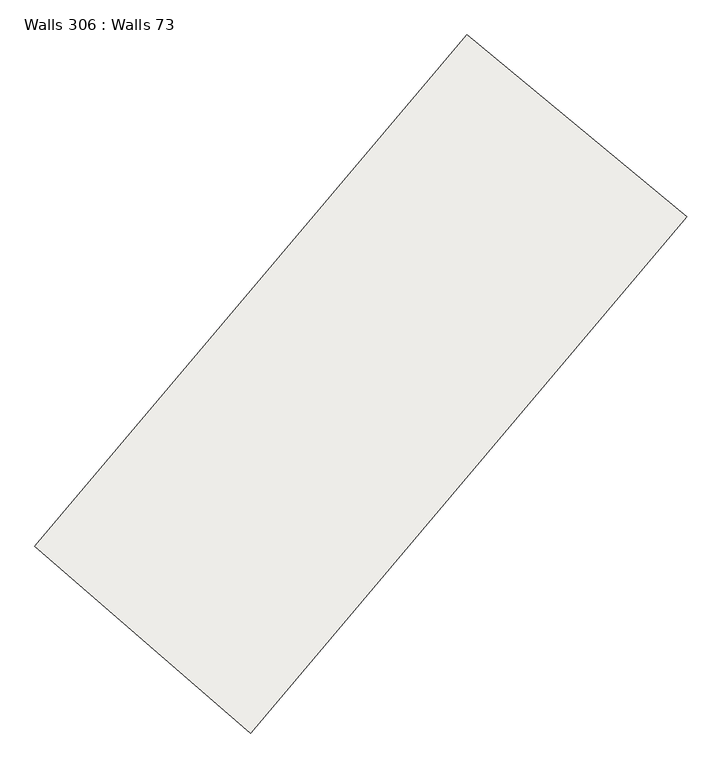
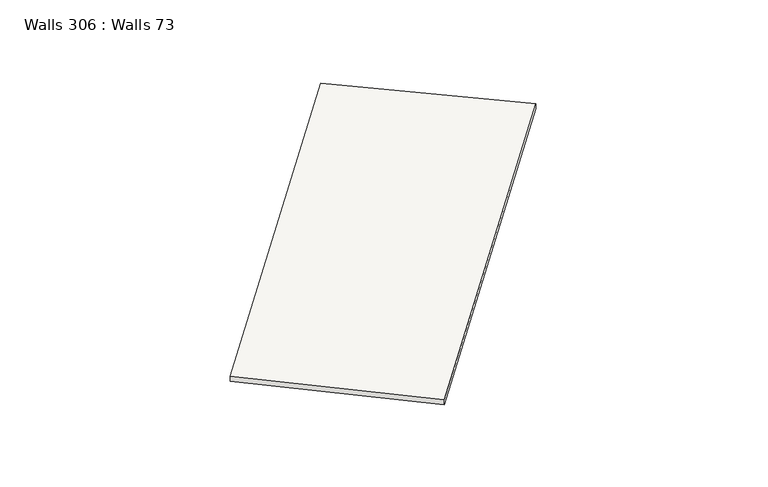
"""IFC4 building model written with IfcOpenShell, lengths in millimetres: slab geometry, Walls 306 : Walls 73."""

from ifc_helpers import new_model, si_unit, frame, origin, place, context, project, spatial, source, transform, mapped, element, save
from ifc_brep_helpers import plane_surface, spline_curve, spline_surface, advanced_brep


def walls_306_walls_73_5ff2eeef(model_context):
    return source(origin(), model_context, "Body", "AdvancedBrep", [
        advanced_brep(
        [(51633.6617327, -100313.7191349, 638790.0), (54432.5728274, -102733.6564654, 638790.0), (54432.5728274, -102733.6564654, 638890.0), (51633.6617327, -100313.7191349, 638890.0), (57239.1273025, -93686.0827888, 638880.0), (57239.1273025, -93686.0827888, 638980.0), (60090.0058807, -96044.5762344, 638980.0), (60090.0058807, -96044.5762344, 638880.0)],
        [
            (0, 1),
            (1, 2),
            (2, 3),
            (3, 0),
            (4, 5),
            (5, 6),
            (6, 7),
            (7, 4),
            (5, 3, spline_curve(3, [(57239.1273025, -93686.0827888, 638980.0), (55394.737620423, -95915.527624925, 638949.999999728), (53526.101778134, -98124.913924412, 638920.000000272), (51633.6617327, -100313.7191349, 638890.0)], [4, 4], [0.0, 28.612478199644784])),
            (2, 6, spline_curve(3, [(54432.5728274, -102733.6564654, 638890.0), (56342.557417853, -100524.559148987, 638920.000000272), (58228.517121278, -98294.689939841, 638949.999999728), (60090.0058807, -96044.5762344, 638980.0)], [4, 4], [0.0, 28.612478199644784])),
            (7, 1, spline_curve(3, [(60090.0058807, -96044.5762344, 638880.0), (58228.517121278, -98294.689939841, 638849.999999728), (56342.557417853, -100524.559148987, 638820.000000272), (54432.5728274, -102733.6564654, 638790.0)], [4, 4], [0.0, 28.612478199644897])),
            (0, 4, spline_curve(3, [(51633.6617327, -100313.7191349, 638790.0), (53526.101778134, -98124.913924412, 638820.000000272), (55394.737620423, -95915.527624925, 638849.999999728), (57239.1273025, -93686.0827888, 638880.0)], [4, 4], [0.0, 28.612478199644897])),
        ],
        [
            plane_surface(frame((53033.1172801, -101523.6878001, 638840.0), z_axis=(-0.6540371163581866, -0.7564624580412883, 0.0), x_axis=(0.7564624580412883, -0.6540371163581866, 0.0))),
            plane_surface(frame((58664.5665916, -94865.3295116, 638930.0), z_axis=(0.6374306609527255, 0.7705077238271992, 0.0), x_axis=(0.7705077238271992, -0.6374306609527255, 0.0))),
            spline_surface(3, 3, [[(60090.0058807, -96044.5762344, 638980.0), (58228.517121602, -98294.689940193, 638950.0), (56342.557418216, -100524.55914928, 638920.0), (54432.5728274, -102733.6564654, 638890.0)], [(59139.713021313, -95258.411752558, 638980.0), (57283.923954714, -97501.635835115, 638950.0), (55403.738871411, -99724.67740759, 638920.0), (53499.602462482, -101927.010688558, 638890.0)], [(58189.420161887, -94472.247270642, 638980.0), (56339.330787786, -96708.581729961, 638950.0), (54464.920324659, -98924.795665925, 638920.0), (52566.632097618, -101120.364911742, 638890.0)], [(57239.1273025, -93686.0827888, 638980.0), (55394.737620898, -95915.527624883, 638950.0), (53526.101777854, -98124.913924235, 638920.0), (51633.6617327, -100313.7191349, 638890.0)]], [4, 4], [4, 4], [0.0, 12.13910760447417], [0.0, 28.612478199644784]),
            spline_surface(3, 3, [[(57239.1273025, -93686.0827888, 638880.0), (55394.737620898, -95915.527624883, 638850.0), (53526.101777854, -98124.913924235, 638820.0), (51633.6617327, -100313.7191349, 638790.0)], [(58189.420161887, -94472.247270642, 638880.0), (56339.330787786, -96708.581729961, 638850.0), (54464.920324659, -98924.795665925, 638820.0), (52566.632097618, -101120.364911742, 638790.0)], [(59139.713021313, -95258.411752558, 638880.0), (57283.923954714, -97501.635835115, 638850.0), (55403.738871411, -99724.67740759, 638820.0), (53499.602462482, -101927.010688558, 638790.0)], [(60090.0058807, -96044.5762344, 638880.0), (58228.517121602, -98294.689940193, 638850.0), (56342.557418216, -100524.55914928, 638820.0), (54432.5728274, -102733.6564654, 638790.0)]], [4, 4], [4, 4], [0.0, 12.139107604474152], [0.0, 28.612478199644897]),
            spline_surface(3, 3, [[(60090.0058807, -96044.5762344, 638880.0), (58228.517121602, -98294.689940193, 638850.0), (56342.557418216, -100524.55914928, 638820.0), (54432.5728274, -102733.6564654, 638790.0)], [(60090.0058807, -96044.5762344, 638913.333333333), (58228.517121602, -98294.689940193, 638883.333333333), (56342.557418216, -100524.55914928, 638853.333333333), (54432.5728274, -102733.6564654, 638823.333333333)], [(60090.0058807, -96044.5762344, 638946.666666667), (58228.517121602, -98294.689940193, 638916.666666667), (56342.557418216, -100524.55914928, 638886.666666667), (54432.5728274, -102733.6564654, 638856.666666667)], [(60090.0058807, -96044.5762344, 638980.0), (58228.517121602, -98294.689940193, 638950.0), (56342.557418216, -100524.55914928, 638920.0), (54432.5728274, -102733.6564654, 638890.0)]], [4, 4], [4, 4], [0.0, 0.3280839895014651], [0.0, 28.744483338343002]),
            spline_surface(3, 3, [[(57239.1273025, -93686.0827888, 638980.0), (55394.737620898, -95915.527624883, 638950.0), (53526.101777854, -98124.913924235, 638920.0), (51633.6617327, -100313.7191349, 638890.0)], [(57239.1273025, -93686.0827888, 638946.666666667), (55394.737620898, -95915.527624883, 638916.666666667), (53526.101777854, -98124.913924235, 638886.666666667), (51633.6617327, -100313.7191349, 638856.666666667)], [(57239.1273025, -93686.0827888, 638913.333333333), (55394.737620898, -95915.527624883, 638883.333333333), (53526.101777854, -98124.913924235, 638853.333333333), (51633.6617327, -100313.7191349, 638823.333333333)], [(57239.1273025, -93686.0827888, 638880.0), (55394.737620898, -95915.527624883, 638850.0), (53526.101777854, -98124.913924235, 638820.0), (51633.6617327, -100313.7191349, 638790.0)]], [4, 4], [4, 4], [0.0, 0.3280839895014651], [0.0, 28.480473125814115]),
        ],
        [
            (0, [[1, 2, 3, 4]]),
            (1, [[5, 6, 7, 8]]),
            (2, [[-6, 9, -3, 10]]),
            (3, [[-8, 11, -1, 12]]),
            (4, [[-7, -10, -2, -11]]),
            (5, [[-5, -12, -4, -9]]),
        ],
    ),
    ])


if __name__ == "__main__":
    model = new_model("IFC4")
    model_context = context("Model", 3, world=origin())
    ifc_project = project(units=[si_unit("LENGTHUNIT", "METRE", prefix="MILLI")], contexts=[model_context])
    site = spatial("IfcSite", under=ifc_project)
    building = spatial("IfcBuilding", under=site)
    placement = place(None, origin())
    walls_306_walls_73_shape = walls_306_walls_73_5ff2eeef(model_context)
    element("IfcSlab", 1, ObjectType="Walls 306 : Walls 73", at=placement, inside=building, context=model_context, shape_type="MappedRepresentation", body=[
        mapped(walls_306_walls_73_shape, transform((0.0, 0.0, 0.0), x_axis=(1.0, 0.0, 0.0), y_axis=(0.0, 1.0, 0.0), z_axis=(0.0, 0.0, 1.0))),
    ])
    save(model, "model.ifc")
